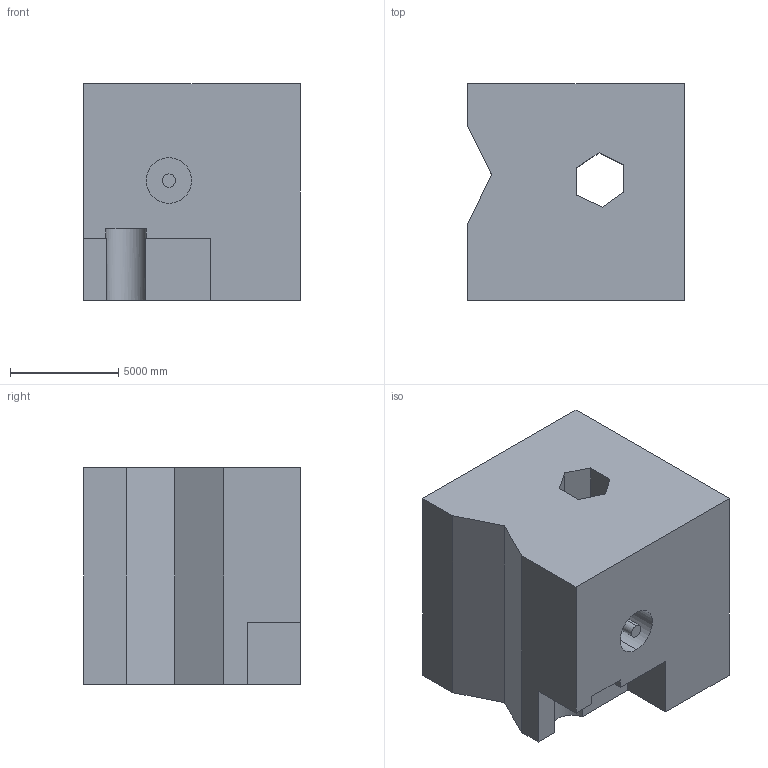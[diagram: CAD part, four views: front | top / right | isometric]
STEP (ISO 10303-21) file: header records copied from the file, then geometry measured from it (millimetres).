
FILE_DESCRIPTION (( 'STEP AP203' ), '1' );
FILE_NAME ('414.STEP', '2022-07-29T11:11:08', ( 'user' ), ( '' ), 'SwSTEP 2.0', 'SolidWorks 2021', '' );
FILE_SCHEMA (( 'CONFIG_CONTROL_DESIGN' ));
Length unit declared in the file: centimetre
Products named in the file (1): 414
Bounding box: 10000 x 10000 x 10000 mm (x, y, z)
Volume: 880981745879.5 mm3; surface area: 689229833.2 mm2
Topology: 1 solids, 1 shells, 30 faces, 78 edges, 52 vertices
Faces by surface type: plane 25, cylinder 5
Entity records: 995 total; most frequent: CARTESIAN_POINT 161, ORIENTED_EDGE 156, DIRECTION 152, EDGE_CURVE 78, VECTOR 66, LINE 66, VERTEX_POINT 52, AXIS2_PLACEMENT_3D 43
